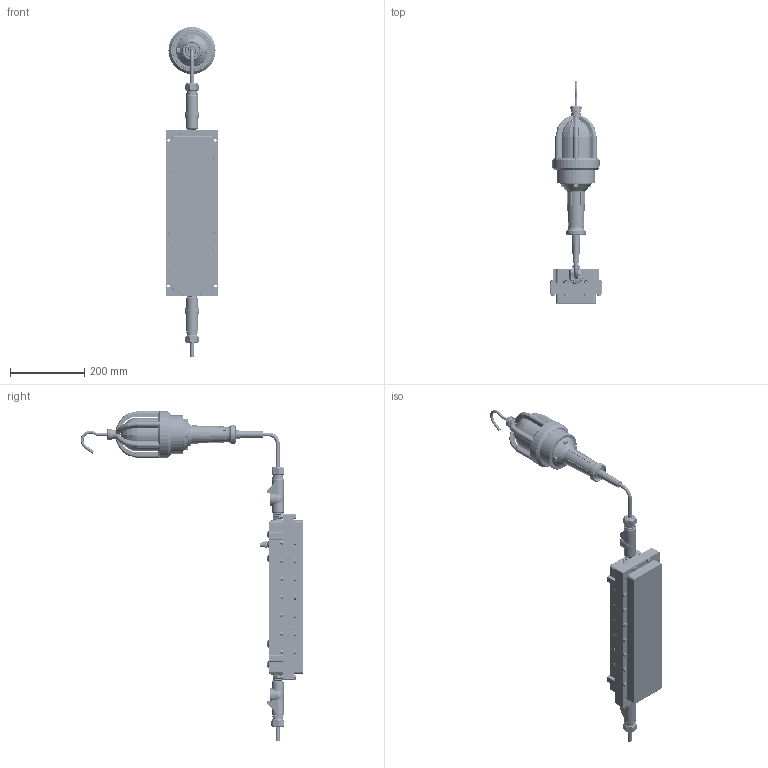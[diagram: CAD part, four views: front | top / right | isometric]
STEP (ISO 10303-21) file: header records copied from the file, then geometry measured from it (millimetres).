
FILE_DESCRIPTION (( 'STEP AP214' ), '1' );
FILE_NAME ('EPL-120X12V-C1D.STEP', '2016-02-15T20:03:18', ( '' ), ( '' ), 'SwSTEP 2.0', 'SolidWorks 2016', '' );
FILE_SCHEMA (( 'AUTOMOTIVE_DESIGN' ));
Length unit declared in the file: inch
Products named in the file (13): EPL-120V-DW pigtail; .75in CGB; EPL-120V-DW Part_Cord; EPL-120X12V-C1D; EYS Assembly; 3-4 Nipple_44665K191; .5 ends .75 side .25 angle; Ballast Box; hex bolt_ai_HBOLT 0.2500-20x1.5x0.75-S; hex nut_ai_HNUT 0.2500-20-D-N; external tooth lock washer_ai_ASME B18.21.1 - 0.256; BB Middle part; .75 nut
Assembly tree (66 placements, depth 3):
  EPL-120X12V-C1D
    EPL-120V-DW Part_Cord
    .75in CGB  x2
    EPL-120V-DW pigtail
    .75 nut  x2
    Ballast Box
      BB Middle part
      external tooth lock washer_ai_ASME B18.21.1 - 0.256  x18
      hex nut_ai_HNUT 0.2500-20-D-N  x18
      hex bolt_ai_HBOLT 0.2500-20x1.5x0.75-S  x18
    EYS Assembly  x2
      .5 ends .75 side .25 angle
      3-4 Nipple_44665K191
Bounding box: 140.21 x 601.15 x 890.71 mm (x, y, z)
Volume: 6451243.1 mm3; surface area: 675607.7 mm2
Topology: 68 solids, 68 shells, 4819 faces, 12390 edges, 7742 vertices
Faces by surface type: cone 1929, cylinder 1599, plane 1082, torus 88, bspline 82, sphere 39
Entity records: 64051 total; most frequent: CARTESIAN_POINT 28285, DIRECTION 5869, ORIENTED_EDGE 5676, EDGE_CURVE 2838, AXIS2_PLACEMENT_3D 2424, VERTEX_POINT 1742, EDGE_LOOP 1290, CIRCLE 1268
